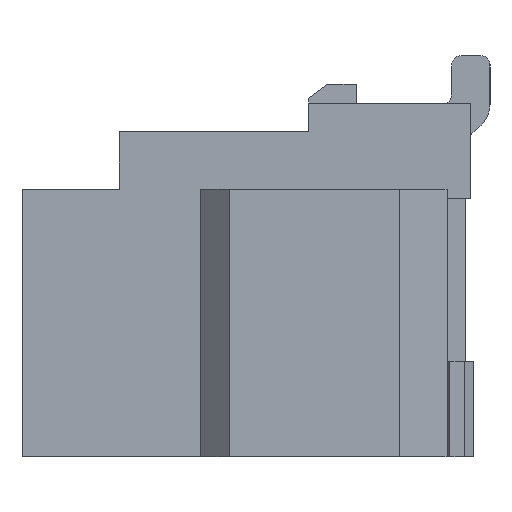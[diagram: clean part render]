
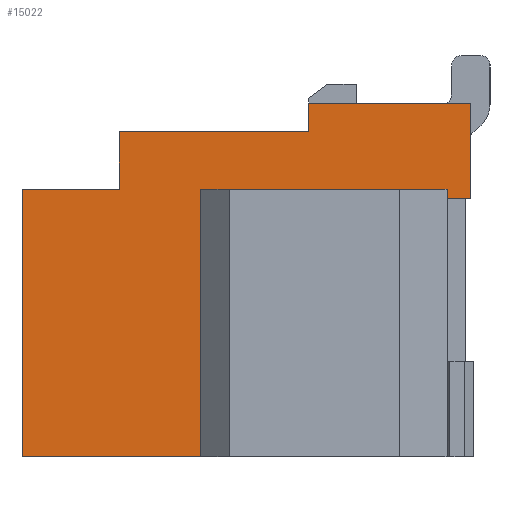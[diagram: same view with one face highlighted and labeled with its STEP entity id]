
A CAD part, left-side view. The second image highlights one B-rep face of the part: STEP entity #15022.
In plain terms, the highlighted planar face has unit normal (-1, 0, 0).
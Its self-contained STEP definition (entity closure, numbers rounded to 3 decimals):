
#521=DIRECTION('',(0.,1.,0.));
#522=VECTOR('',#521,1.87);
#523=CARTESIAN_POINT('',(1.5,2.93,-4.21));
#524=LINE('',#523,#522);
#525=DIRECTION('',(0.,0.,1.));
#526=VECTOR('',#525,0.3);
#527=CARTESIAN_POINT('',(1.5,1.8,-0.81));
#528=LINE('',#527,#526);
#529=DIRECTION('',(0.,-1.,0.));
#530=VECTOR('',#529,1.7);
#531=CARTESIAN_POINT('',(1.5,1.8,-0.51));
#532=LINE('',#531,#530);
#533=DIRECTION('',(0.,0.,1.));
#534=VECTOR('',#533,0.1);
#535=CARTESIAN_POINT('',(1.5,0.35,-1.51));
#536=LINE('',#535,#534);
#1583=DIRECTION('',(0.,0.,-1.));
#1584=VECTOR('',#1583,2.8);
#1585=CARTESIAN_POINT('',(1.5,4.8,-1.41));
#1586=LINE('',#1585,#1584);
#1595=DIRECTION('',(0.,1.,0.));
#1596=VECTOR('',#1595,1.02);
#1597=CARTESIAN_POINT('',(1.5,3.78,-1.41));
#1598=LINE('',#1597,#1596);
#1663=DIRECTION('',(0.,1.,0.));
#1664=VECTOR('',#1663,1.98);
#1665=CARTESIAN_POINT('',(1.5,1.8,-0.81));
#1666=LINE('',#1665,#1664);
#1679=DIRECTION('',(0.,0.,-1.));
#1680=VECTOR('',#1679,0.6);
#1681=CARTESIAN_POINT('',(1.5,3.78,-0.81));
#1682=LINE('',#1681,#1680);
#2177=DIRECTION('',(0.,0.,1.));
#2178=VECTOR('',#2177,2.8);
#2179=CARTESIAN_POINT('',(1.5,2.93,-4.21));
#2180=LINE('',#2179,#2178);
#2193=DIRECTION('',(0.,-1.,0.));
#2194=VECTOR('',#2193,2.58);
#2195=CARTESIAN_POINT('',(1.5,2.93,-1.41));
#2196=LINE('',#2195,#2194);
#4223=DIRECTION('',(0.,-1.,0.));
#4224=VECTOR('',#4223,0.25);
#4225=CARTESIAN_POINT('',(1.5,0.35,-1.51));
#4226=LINE('',#4225,#4224);
#4235=DIRECTION('',(0.,0.,1.));
#4236=VECTOR('',#4235,1.);
#4237=CARTESIAN_POINT('',(1.5,0.1,-1.51));
#4238=LINE('',#4237,#4236);
#11756=CARTESIAN_POINT('',(1.5,1.8,-0.51));
#11758=VERTEX_POINT('',#11756);
#11829=CARTESIAN_POINT('',(1.5,0.1,-0.51));
#11830=VERTEX_POINT('',#11829);
#11831=CARTESIAN_POINT('',(1.5,1.8,-0.81));
#11832=VERTEX_POINT('',#11831);
#12931=CARTESIAN_POINT('',(1.5,2.93,-4.21));
#12932=CARTESIAN_POINT('',(1.5,4.8,-4.21));
#12933=VERTEX_POINT('',#12931);
#12934=VERTEX_POINT('',#12932);
#12935=CARTESIAN_POINT('',(1.5,4.8,-1.41));
#12936=VERTEX_POINT('',#12935);
#12937=CARTESIAN_POINT('',(1.5,3.78,-1.41));
#12938=VERTEX_POINT('',#12937);
#12939=CARTESIAN_POINT('',(1.5,3.78,-0.81));
#12940=VERTEX_POINT('',#12939);
#12941=CARTESIAN_POINT('',(1.5,0.1,-1.51));
#12942=VERTEX_POINT('',#12941);
#12943=CARTESIAN_POINT('',(1.5,0.35,-1.51));
#12944=VERTEX_POINT('',#12943);
#12945=CARTESIAN_POINT('',(1.5,0.35,-1.41));
#12946=VERTEX_POINT('',#12945);
#12947=CARTESIAN_POINT('',(1.5,2.93,-1.41));
#12948=VERTEX_POINT('',#12947);
#14993=CARTESIAN_POINT('',(1.5,2.45,-2.36));
#14994=DIRECTION('',(1.,0.,0.));
#14995=DIRECTION('',(0.,-1.,0.));
#14996=AXIS2_PLACEMENT_3D('',#14993,#14994,#14995);
#14997=PLANE('',#14996);
#14999=ORIENTED_EDGE('',*,*,#14998,.T.);
#15001=ORIENTED_EDGE('',*,*,#15000,.F.);
#15003=ORIENTED_EDGE('',*,*,#15002,.F.);
#15005=ORIENTED_EDGE('',*,*,#15004,.F.);
#15007=ORIENTED_EDGE('',*,*,#15006,.F.);
#15008=ORIENTED_EDGE('',*,*,#14722,.T.);
#15009=ORIENTED_EDGE('',*,*,#14711,.T.);
#15011=ORIENTED_EDGE('',*,*,#15010,.F.);
#15013=ORIENTED_EDGE('',*,*,#15012,.F.);
#15015=ORIENTED_EDGE('',*,*,#15014,.T.);
#15017=ORIENTED_EDGE('',*,*,#15016,.F.);
#15019=ORIENTED_EDGE('',*,*,#15018,.F.);
#15020=EDGE_LOOP('',(#14999,#15001,#15003,#15005,#15007,#15008,#15009,#15011,
#15013,#15015,#15017,#15019));
#15021=FACE_OUTER_BOUND('',#15020,.F.);
#14711=EDGE_CURVE('',#11758,#11830,#532,.T.);
#14722=EDGE_CURVE('',#11832,#11758,#528,.T.);
#14998=EDGE_CURVE('',#12933,#12934,#524,.T.);
#15000=EDGE_CURVE('',#12936,#12934,#1586,.T.);
#15002=EDGE_CURVE('',#12938,#12936,#1598,.T.);
#15004=EDGE_CURVE('',#12940,#12938,#1682,.T.);
#15006=EDGE_CURVE('',#11832,#12940,#1666,.T.);
#15010=EDGE_CURVE('',#12942,#11830,#4238,.T.);
#15012=EDGE_CURVE('',#12944,#12942,#4226,.T.);
#15014=EDGE_CURVE('',#12944,#12946,#536,.T.);
#15016=EDGE_CURVE('',#12948,#12946,#2196,.T.);
#15018=EDGE_CURVE('',#12933,#12948,#2180,.T.);
#15022=ADVANCED_FACE('',(#15021),#14997,.F.);
